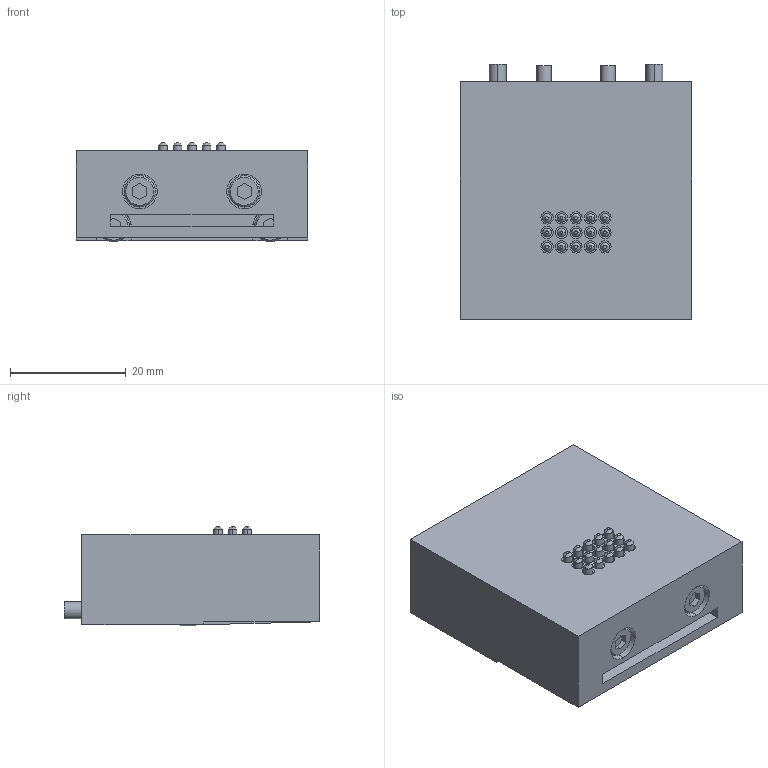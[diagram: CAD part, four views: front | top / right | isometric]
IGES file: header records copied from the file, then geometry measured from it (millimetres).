
Start section: 3D InterOp IGES (v. 2022 1.0.0), Spatial Corp. Copyright (c) 1999-2020.
Global section: file name: KHG-12HS-D315_ver1.igs; native system: Spatial Corp.; preprocessor: 3D InterOp GENERIC/IGES 3.0; author: Noname; organization: Noname; date: 20260518.094147; units: millimetre
Bounding box: 40 x 44 x 17.2 mm (x, y, z)
Surface area: 9185.8 mm2 (no closed solid volume)
Topology: 0 solids, 0 shells, 336 faces, 1498 edges, 1498 vertices
Faces by surface type: revolution 176, extrusion 160
